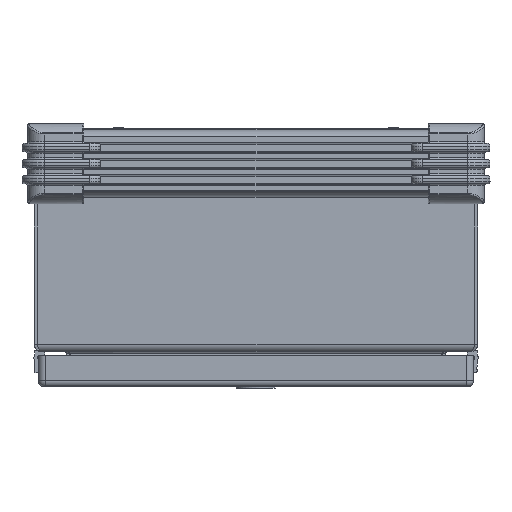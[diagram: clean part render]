
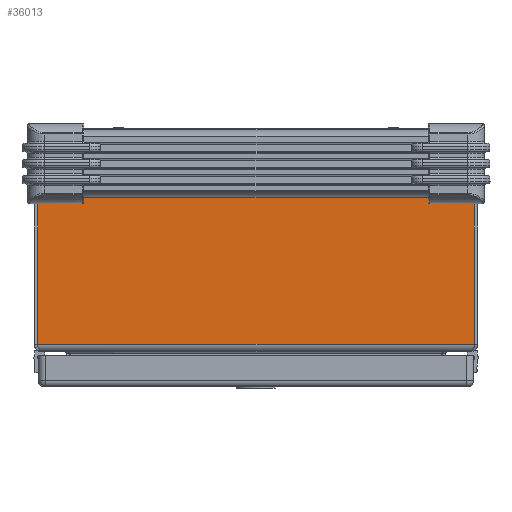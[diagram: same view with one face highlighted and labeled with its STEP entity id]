
A CAD part, left-side view. The second image highlights one B-rep face of the part: STEP entity #36013.
In plain terms, the highlighted planar face has unit normal (-1, 0, 0) as drawn and (1, 0, 0) by its records, which use the part's own axes.
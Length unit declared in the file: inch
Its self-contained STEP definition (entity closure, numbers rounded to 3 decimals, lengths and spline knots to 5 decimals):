
#5224 = CARTESIAN_POINT ( 'NONE',  ( 6.8905, -4.84243, 0.132 ) ) ;
#5226 = CARTESIAN_POINT ( 'NONE',  ( 6.8905, -4.84243, 4.564 ) ) ;
#5252 = CARTESIAN_POINT ( 'NONE',  ( 6.8905, 4.84243, 4.564 ) ) ;
#5254 = CARTESIAN_POINT ( 'NONE',  ( 6.8905, 4.84243, 0.132 ) ) ;
#16724 = CARTESIAN_POINT ( 'NONE',  ( 6.8905, -2.8535, 0.662 ) ) ;
#16725 = CARTESIAN_POINT ( 'NONE',  ( 6.8905, -2.8535, 0.444 ) ) ;
#16733 = CARTESIAN_POINT ( 'NONE',  ( 6.8905, 2.8535, 0.662 ) ) ;
#16734 = CARTESIAN_POINT ( 'NONE',  ( 6.8905, 2.8535, 0.444 ) ) ;
#31209 = EDGE_LOOP ( 'NONE', ( #36798, #36797 ) ) ;
#31244 = EDGE_LOOP ( 'NONE', ( #36796, #36795 ) ) ;
#31246 = EDGE_LOOP ( 'NONE', ( #36794, #36793, #36792, #36791 ) ) ;
#36013 = ADVANCED_FACE ( 'NONE', ( #63113, #63118, #63120 ), #60099, .T. ) ;
#36791 = ORIENTED_EDGE ( 'NONE', *, *, #43055, .T. ) ;
#36792 = ORIENTED_EDGE ( 'NONE', *, *, #42994, .T. ) ;
#36793 = ORIENTED_EDGE ( 'NONE', *, *, #43047, .F. ) ;
#36794 = ORIENTED_EDGE ( 'NONE', *, *, #43038, .T. ) ;
#36795 = ORIENTED_EDGE ( 'NONE', *, *, #43054, .F. ) ;
#36796 = ORIENTED_EDGE ( 'NONE', *, *, #42890, .F. ) ;
#36797 = ORIENTED_EDGE ( 'NONE', *, *, #43046, .F. ) ;
#36798 = ORIENTED_EDGE ( 'NONE', *, *, #42882, .F. ) ;
#42882 = EDGE_CURVE ( 'NONE', #67284, #67285, #64512, .T. ) ;
#42890 = EDGE_CURVE ( 'NONE', #67293, #67294, #64524, .T. ) ;
#42994 = EDGE_CURVE ( 'NONE', #66153, #66151, #60377, .T. ) ;
#43038 = EDGE_CURVE ( 'NONE', #66181, #66179, #60434, .T. ) ;
#43046 = EDGE_CURVE ( 'NONE', #67285, #67284, #60457, .T. ) ;
#43047 = EDGE_CURVE ( 'NONE', #66153, #66179, #60449, .T. ) ;
#43054 = EDGE_CURVE ( 'NONE', #67294, #67293, #60472, .T. ) ;
#43055 = EDGE_CURVE ( 'NONE', #66151, #66181, #60459, .T. ) ;
#53959 = AXIS2_PLACEMENT_3D ( 'NONE', #61111, #61112, #61113 ) ;
#53967 = AXIS2_PLACEMENT_3D ( 'NONE', #61131, #61132, #61133 ) ;
#54016 = AXIS2_PLACEMENT_3D ( 'NONE', #61513, #61515, #61516 ) ;
#54018 = AXIS2_PLACEMENT_3D ( 'NONE', #61526, #57524, #57525 ) ;
#57524 = DIRECTION ( 'NONE',  ( 1., 0., 0. ) ) ;
#57525 = DIRECTION ( 'NONE',  ( 0., 0., -1. ) ) ;
#57526 = CARTESIAN_POINT ( 'NONE',  ( 6.8905, -73.8265, 0.132 ) ) ;
#57527 = DIRECTION ( 'NONE',  ( 0., 1., 0. ) ) ;
#58832 = AXIS2_PLACEMENT_3D ( 'NONE', #60094, #60100, #60101 ) ;
#60094 = CARTESIAN_POINT ( 'NONE',  ( 6.8905, -73.8265, 4.564 ) ) ;
#60099 = PLANE ( 'NONE',  #58832 ) ;
#60100 = DIRECTION ( 'NONE',  ( 1., 0., 0. ) ) ;
#60101 = DIRECTION ( 'NONE',  ( 0., 0., -1. ) ) ;
#60377 = LINE ( 'NONE', #61385, #60378 ) ;
#60378 = VECTOR ( 'NONE', #61386, 39.37008 ) ;
#60434 = LINE ( 'NONE', #61496, #60442 ) ;
#60442 = VECTOR ( 'NONE', #61497, 39.37008 ) ;
#60449 = LINE ( 'NONE', #61517, #60450 ) ;
#60450 = VECTOR ( 'NONE', #61518, 39.37008 ) ;
#60455 = VECTOR ( 'NONE', #57527, 39.37008 ) ;
#60457 = CIRCLE ( 'NONE', #54016, 0.109 ) ;
#60459 = LINE ( 'NONE', #57526, #60455 ) ;
#60472 = CIRCLE ( 'NONE', #54018, 0.109 ) ;
#61111 = CARTESIAN_POINT ( 'NONE',  ( 6.8905, -2.8535, 0.553 ) ) ;
#61112 = DIRECTION ( 'NONE',  ( 1., 0., 0. ) ) ;
#61113 = DIRECTION ( 'NONE',  ( 0., 0., -1. ) ) ;
#61131 = CARTESIAN_POINT ( 'NONE',  ( 6.8905, 2.8535, 0.553 ) ) ;
#61132 = DIRECTION ( 'NONE',  ( 1., 0., 0. ) ) ;
#61133 = DIRECTION ( 'NONE',  ( 0., 0., -1. ) ) ;
#61385 = CARTESIAN_POINT ( 'NONE',  ( 6.8905, -4.84243, 4.564 ) ) ;
#61386 = DIRECTION ( 'NONE',  ( 0., 0., -1. ) ) ;
#61496 = CARTESIAN_POINT ( 'NONE',  ( 6.8905, 4.84243, 4.564 ) ) ;
#61497 = DIRECTION ( 'NONE',  ( 0., 0., 1. ) ) ;
#61513 = CARTESIAN_POINT ( 'NONE',  ( 6.8905, -2.8535, 0.553 ) ) ;
#61515 = DIRECTION ( 'NONE',  ( 1., 0., 0. ) ) ;
#61516 = DIRECTION ( 'NONE',  ( 0., 0., -1. ) ) ;
#61517 = CARTESIAN_POINT ( 'NONE',  ( 6.8905, -73.8265, 4.564 ) ) ;
#61518 = DIRECTION ( 'NONE',  ( 0., 1., 0. ) ) ;
#61526 = CARTESIAN_POINT ( 'NONE',  ( 6.8905, 2.8535, 0.553 ) ) ;
#63113 = FACE_BOUND ( 'NONE', #31209, .T. ) ;
#63118 = FACE_BOUND ( 'NONE', #31244, .T. ) ;
#63120 = FACE_OUTER_BOUND ( 'NONE', #31246, .T. ) ;
#64512 = CIRCLE ( 'NONE', #53959, 0.109 ) ;
#64524 = CIRCLE ( 'NONE', #53967, 0.109 ) ;
#66151 = VERTEX_POINT ( 'NONE', #5224 ) ;
#66153 = VERTEX_POINT ( 'NONE', #5226 ) ;
#66179 = VERTEX_POINT ( 'NONE', #5252 ) ;
#66181 = VERTEX_POINT ( 'NONE', #5254 ) ;
#67284 = VERTEX_POINT ( 'NONE', #16724 ) ;
#67285 = VERTEX_POINT ( 'NONE', #16725 ) ;
#67293 = VERTEX_POINT ( 'NONE', #16733 ) ;
#67294 = VERTEX_POINT ( 'NONE', #16734 ) ;
